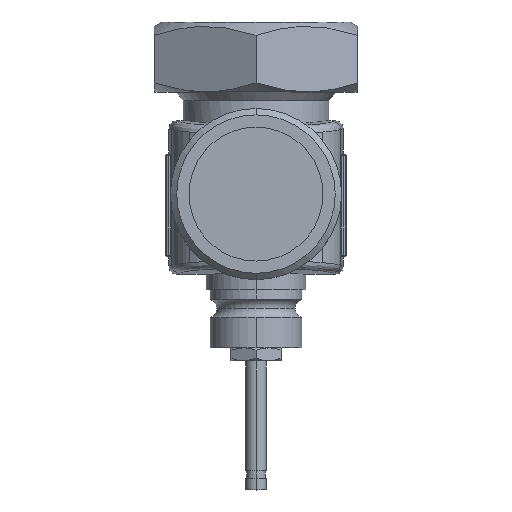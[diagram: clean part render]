
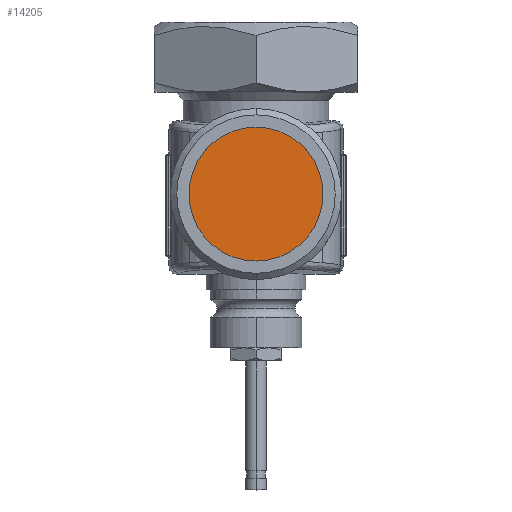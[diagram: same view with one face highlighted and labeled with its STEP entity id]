
A CAD part, top view. The second image highlights one B-rep face of the part: STEP entity #14205.
In plain terms, the highlighted planar face has unit normal (0, 0, 1).
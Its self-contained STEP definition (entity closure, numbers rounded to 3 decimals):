
#13149=CARTESIAN_POINT('',(41.25,0.,134.));
#13150=VERTEX_POINT('',#13149);
#13159=CARTESIAN_POINT('',(-41.25,0.,134.));
#13160=VERTEX_POINT('',#13159);
#13161=CARTESIAN_POINT('',(0.,0.,134.));
#13162=DIRECTION('',(0.0,0.0,-1.0));
#13163=DIRECTION('',(1.0,0.0,0.0));
#13164=AXIS2_PLACEMENT_3D('',#13161,#13162,#13163);
#13165=CIRCLE('',#13164,41.25);
#13166=EDGE_CURVE('',#13150,#13160,#13165,.T.);
#14186=CARTESIAN_POINT('',(0.,0.,134.));
#14187=DIRECTION('',(0.0,0.0,-1.0));
#14188=DIRECTION('',(1.0,0.0,0.0));
#14189=AXIS2_PLACEMENT_3D('',#14186,#14187,#14188);
#14190=CIRCLE('',#14189,41.25);
#14191=EDGE_CURVE('',#13160,#13150,#14190,.T.);
#14196=CARTESIAN_POINT('',(0.,0.,134.));
#14197=DIRECTION('',(0.0,0.0,-1.0));
#14198=DIRECTION('',(0.0,1.0,0.0));
#14199=AXIS2_PLACEMENT_3D('',#14196,#14197,#14198);
#14200=PLANE('',#14199);
#14201=ORIENTED_EDGE('',*,*,#13166,.F.);
#14202=ORIENTED_EDGE('',*,*,#14191,.F.);
#14203=EDGE_LOOP('',(#14201,#14202));
#14204=FACE_OUTER_BOUND('',#14203,.T.);
#14205=ADVANCED_FACE('',(#14204),#14200,.F.);
